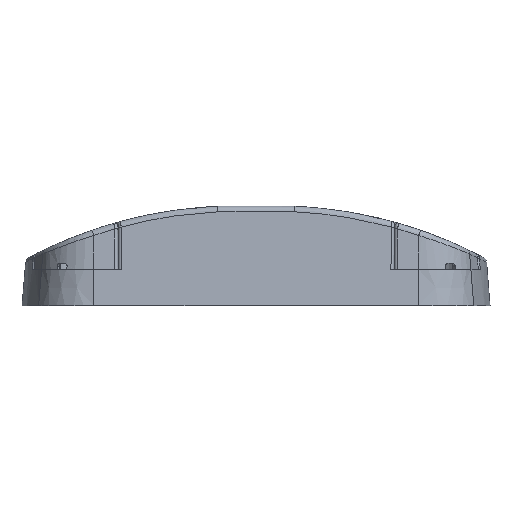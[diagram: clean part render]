
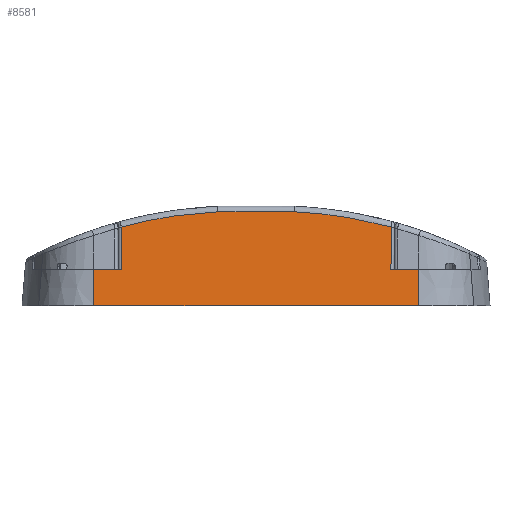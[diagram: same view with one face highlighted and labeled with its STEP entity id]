
A CAD part, top view. The second image highlights one B-rep face of the part: STEP entity #8581.
In plain terms, the highlighted planar face has unit normal (0, 0.086, 0.996).
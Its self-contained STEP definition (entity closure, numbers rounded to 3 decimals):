
#487 = LINE ( 'NONE', #21835, #37547 ) ;
#978 = VECTOR ( 'NONE', #19924, 1000. ) ;
#2110 = VECTOR ( 'NONE', #6746, 1000. ) ;
#2241 = VERTEX_POINT ( 'NONE', #45858 ) ;
#4340 = LINE ( 'NONE', #38753, #2110 ) ;
#4846 = VERTEX_POINT ( 'NONE', #25861 ) ;
#5664 = VECTOR ( 'NONE', #16790, 1000. ) ;
#5797 = CARTESIAN_POINT ( 'NONE',  ( 530.036, -346.426, -136.222 ) ) ;
#5842 = DIRECTION ( 'NONE',  ( 0., 0.996, -0.087 ) ) ;
#5875 = DIRECTION ( 'NONE',  ( 0., 0.087, 0.996 ) ) ;
#6264 = EDGE_CURVE ( 'NONE', #12885, #38789, #7163, .T. ) ;
#6604 = CARTESIAN_POINT ( 'NONE',  ( 499.646, -327.734, -137.857 ) ) ;
#6746 = DIRECTION ( 'NONE',  ( 1., 0., 0. ) ) ;
#7163 = LINE ( 'NONE', #5797, #978 ) ;
#7596 = EDGE_CURVE ( 'NONE', #38789, #29293, #487, .T. ) ;
#7674 = EDGE_CURVE ( 'NONE', #46214, #36708, #46030, .T. ) ;
#8417 = CARTESIAN_POINT ( 'NONE',  ( 520.911, -332.304, -137.458 ) ) ;
#8581 = ADVANCED_FACE ( 'NONE', ( #27518 ), #41641, .T. ) ;
#9917 = CARTESIAN_POINT ( 'NONE',  ( 510.437, -329.435, -137.709 ) ) ;
#10715 = ORIENTED_EDGE ( 'NONE', *, *, #22804, .T. ) ;
#11330 = DIRECTION ( 'NONE',  ( 0.006, -0.996, 0.087 ) ) ;
#11638 = CARTESIAN_POINT ( 'NONE',  ( 431.154, -332.304, -137.458 ) ) ;
#12655 = EDGE_CURVE ( 'NONE', #29293, #2241, #33625, .T. ) ;
#12765 = CARTESIAN_POINT ( 'NONE',  ( 431.154, -332.304, -137.458 ) ) ;
#12885 = VERTEX_POINT ( 'NONE', #17393 ) ;
#13386 = VERTEX_POINT ( 'NONE', #20937 ) ;
#14383 = CARTESIAN_POINT ( 'NONE',  ( 530.036, -358.426, -135.172 ) ) ;
#15344 = ORIENTED_EDGE ( 'NONE', *, *, #46167, .T. ) ;
#15483 = LINE ( 'NONE', #23235, #36793 ) ;
#15789 = CARTESIAN_POINT ( 'NONE',  ( 431.24, -346.427, -136.222 ) ) ;
#16335 = CARTESIAN_POINT ( 'NONE',  ( 488.793, -327.252, -137.9 ) ) ;
#16790 = DIRECTION ( 'NONE',  ( 1., 0., 0. ) ) ;
#17073 = EDGE_LOOP ( 'NONE', ( #44269, #27846, #38863, #10715, #35384, #19621, #22329, #20396, #15344, #24605 ) ) ;
#17218 = EDGE_CURVE ( 'NONE', #2241, #13386, #26169, .T. ) ;
#17393 = CARTESIAN_POINT ( 'NONE',  ( 530.036, -346.426, -136.222 ) ) ;
#17798 = DIRECTION ( 'NONE',  ( 1., 0., 0. ) ) ;
#19621 = ORIENTED_EDGE ( 'NONE', *, *, #33671, .F. ) ;
#19924 = DIRECTION ( 'NONE',  ( -1., 0., 0. ) ) ;
#19936 = DIRECTION ( 'NONE',  ( 0., 0.996, -0.087 ) ) ;
#20396 = ORIENTED_EDGE ( 'NONE', *, *, #41145, .T. ) ;
#20820 = AXIS2_PLACEMENT_3D ( 'NONE', #27394, #5875, #17798 ) ;
#20937 = CARTESIAN_POINT ( 'NONE',  ( 463.271, -327.252, -137.9 ) ) ;
#21835 = CARTESIAN_POINT ( 'NONE',  ( 520.824, -346.426, -136.222 ) ) ;
#22329 = ORIENTED_EDGE ( 'NONE', *, *, #30540, .F. ) ;
#22488 = LINE ( 'NONE', #24149, #5664 ) ;
#22804 = EDGE_CURVE ( 'NONE', #13386, #46214, #35284, .T. ) ;
#23137 = VECTOR ( 'NONE', #5842, 1000. ) ;
#23235 = CARTESIAN_POINT ( 'NONE',  ( 530.036, -358.426, -135.172 ) ) ;
#23533 = VERTEX_POINT ( 'NONE', #35364 ) ;
#23714 = CARTESIAN_POINT ( 'NONE',  ( 520.824, -346.426, -136.222 ) ) ;
#24149 = CARTESIAN_POINT ( 'NONE',  ( 422.029, -346.427, -136.222 ) ) ;
#24605 = ORIENTED_EDGE ( 'NONE', *, *, #6264, .T. ) ;
#24650 = CARTESIAN_POINT ( 'NONE',  ( 488.793, -327.252, -137.9 ) ) ;
#25861 = CARTESIAN_POINT ( 'NONE',  ( 422.029, -346.427, -136.222 ) ) ;
#26069 = CARTESIAN_POINT ( 'NONE',  ( 441.628, -329.435, -137.709 ) ) ;
#26169 = LINE ( 'NONE', #16335, #45860 ) ;
#26554 = CARTESIAN_POINT ( 'NONE',  ( 431.154, -332.304, -137.458 ) ) ;
#27359 = CARTESIAN_POINT ( 'NONE',  ( 422.029, -358.427, -135.172 ) ) ;
#27394 = CARTESIAN_POINT ( 'NONE',  ( 0.001, -353.428, -135.61 ) ) ;
#27518 = FACE_OUTER_BOUND ( 'NONE', #17073, .T. ) ;
#27827 = CARTESIAN_POINT ( 'NONE',  ( 520.911, -332.304, -137.458 ) ) ;
#27846 = ORIENTED_EDGE ( 'NONE', *, *, #12655, .T. ) ;
#29293 = VERTEX_POINT ( 'NONE', #8417 ) ;
#30540 = EDGE_CURVE ( 'NONE', #23533, #4846, #37154, .T. ) ;
#33625 = B_SPLINE_CURVE_WITH_KNOTS ( 'NONE', 3,
 ( #27827, #9917, #6604, #24650 ),
 .UNSPECIFIED., .F., .F.,
 ( 4, 4 ),
 ( 0., 1. ),
 .UNSPECIFIED. ) ;
#33671 = EDGE_CURVE ( 'NONE', #4846, #36708, #22488, .T. ) ;
#35284 = B_SPLINE_CURVE_WITH_KNOTS ( 'NONE', 3,
 ( #44118, #44441, #26069, #26554 ),
 .UNSPECIFIED., .F., .F.,
 ( 4, 4 ),
 ( 0., 1. ),
 .UNSPECIFIED. ) ;
#35364 = CARTESIAN_POINT ( 'NONE',  ( 422.029, -358.427, -135.172 ) ) ;
#35384 = ORIENTED_EDGE ( 'NONE', *, *, #7674, .T. ) ;
#36405 = VECTOR ( 'NONE', #11330, 1000. ) ;
#36562 = DIRECTION ( 'NONE',  ( 0.006, 0.996, -0.087 ) ) ;
#36708 = VERTEX_POINT ( 'NONE', #15789 ) ;
#36793 = VECTOR ( 'NONE', #19936, 1000. ) ;
#37154 = LINE ( 'NONE', #27359, #23137 ) ;
#37547 = VECTOR ( 'NONE', #36562, 1000. ) ;
#38753 = CARTESIAN_POINT ( 'NONE',  ( 422.029, -358.427, -135.172 ) ) ;
#38789 = VERTEX_POINT ( 'NONE', #23714 ) ;
#38863 = ORIENTED_EDGE ( 'NONE', *, *, #17218, .T. ) ;
#39081 = VERTEX_POINT ( 'NONE', #14383 ) ;
#41145 = EDGE_CURVE ( 'NONE', #23533, #39081, #4340, .T. ) ;
#41409 = DIRECTION ( 'NONE',  ( -1., 0., 0. ) ) ;
#41641 = PLANE ( 'NONE',  #20820 ) ;
#44118 = CARTESIAN_POINT ( 'NONE',  ( 463.271, -327.252, -137.9 ) ) ;
#44269 = ORIENTED_EDGE ( 'NONE', *, *, #7596, .T. ) ;
#44441 = CARTESIAN_POINT ( 'NONE',  ( 452.419, -327.734, -137.857 ) ) ;
#45858 = CARTESIAN_POINT ( 'NONE',  ( 488.793, -327.252, -137.9 ) ) ;
#45860 = VECTOR ( 'NONE', #41409, 1000. ) ;
#46030 = LINE ( 'NONE', #11638, #36405 ) ;
#46167 = EDGE_CURVE ( 'NONE', #39081, #12885, #15483, .T. ) ;
#46214 = VERTEX_POINT ( 'NONE', #12765 ) ;
